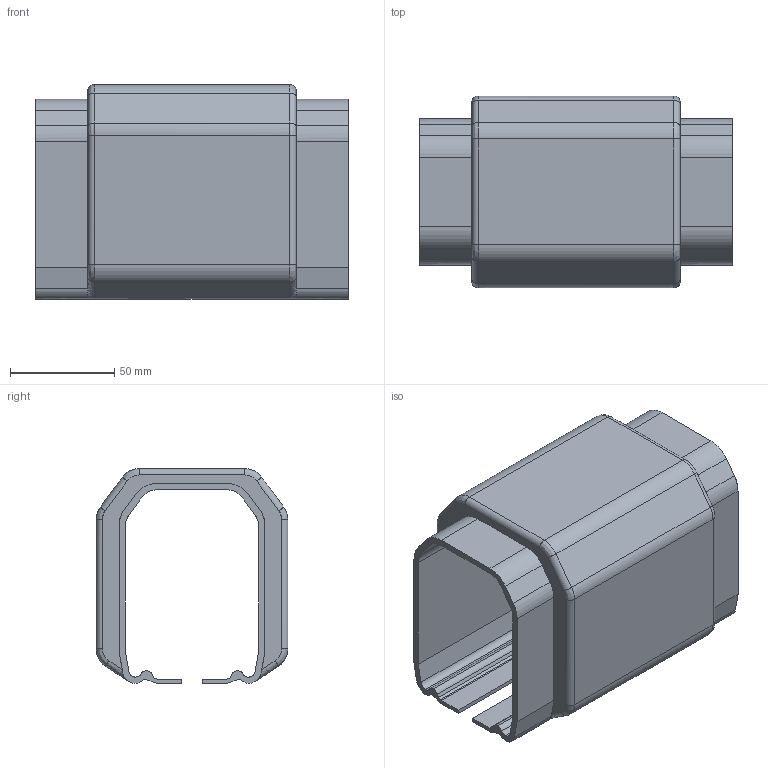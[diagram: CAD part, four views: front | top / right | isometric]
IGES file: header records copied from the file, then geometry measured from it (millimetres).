
Start section: Comment
Global section: file name: Couvre_joint_2010_06.igs; native system:  By UGS Corp.; preprocessor: XPlus GENERIC/IGES 3.0; author: Author; organization: Title; date: 20100624.111036; units: millimetre
Bounding box: 150 x 92 x 103 mm (x, y, z)
Surface area: 97853.3 mm2 (no closed solid volume)
Topology: 0 solids, 0 shells, 114 faces, 650 edges, 650 vertices
Faces by surface type: bspline 114
